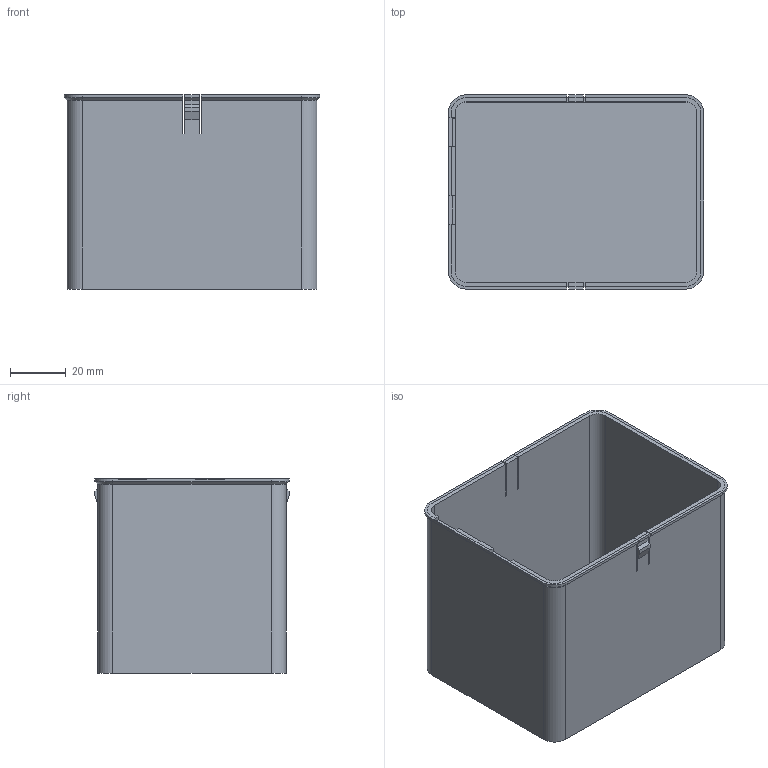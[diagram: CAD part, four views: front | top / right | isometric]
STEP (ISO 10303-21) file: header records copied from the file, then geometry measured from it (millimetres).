
FILE_DESCRIPTION(('Open CASCADE Model'),'2;1');
FILE_NAME('Open CASCADE Shape Model','2026-11-02T07:01:47',('Author'),( 'Open CASCADE'),'Open CASCADE STEP processor 7.8','Open CASCADE 7.8' ,'Unknown');
FILE_SCHEMA(('AUTOMOTIVE_DESIGN { 1 0 10303 214 1 1 1 1 }'));
Length unit declared in the file: millimetre
Products named in the file (1): Open CASCADE STEP translator 7.8 3
Bounding box: 92 x 70 x 70 mm (x, y, z)
Volume: 43374.2 mm3; surface area: 54424.1 mm2
Topology: 1 solids, 1 shells, 86 faces, 236 edges, 152 vertices
Faces by surface type: plane 70, cylinder 12, cone 4
Entity records: 5732 total; most frequent: CARTESIAN_POINT 1063, DIRECTION 844, LINE 600, VECTOR 600, ORIENTED_EDGE 472, PCURVE 472, DEFINITIONAL_REPRESENTATION 472, EDGE_CURVE 236
